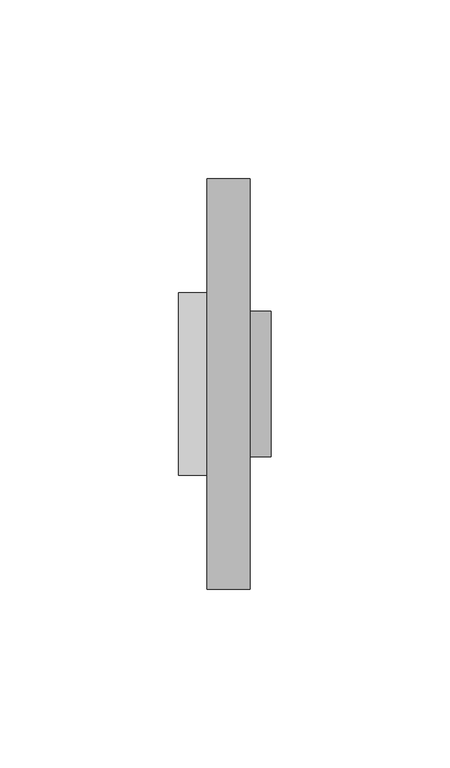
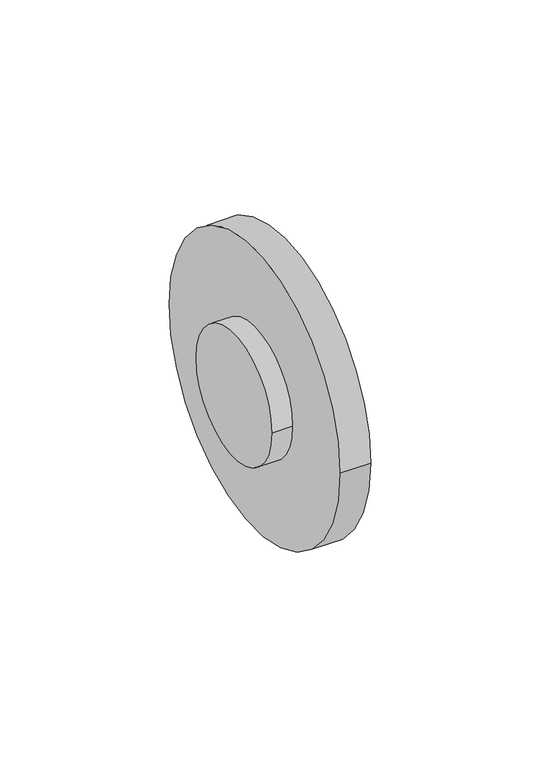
"""IFC4 building model written with IfcOpenShell, lengths in millimetres: pipe fitting geometry, NIRON RED termofusion casquillo con brida : Estándar."""

import ifcopenshell
import ifcopenshell.guid

model = None  # the IFC model being written
_history = None  # IfcOwnerHistory: only IFC2X3 demands one
_inside = {}  # id of a spatial element -> (the spatial element, [elements in it])
_under = {}  # id of a project, library or spatial element -> (it, [spatial elements below it])
_declared = {}  # id of a project -> (the project, [libraries it declares])
_typed = {}  # id of a type object -> (the type object, [elements of that type])
_made_of = {}  # id of a material, layer set ... -> (it, [elements and type objects made of it])


def new_model(schema):
    """Start an empty IFC model of exactly this schema.

    Asked for "IFC4X3", IfcOpenShell would pick the latest addendum, in which some entities
    have other attributes; the version numbers below select the first issue.
    IFC2X3 requires an IfcOwnerHistory on every rooted entity: one is made here for all.
    """
    global model, _history
    if schema == "IFC4X3":
        model = ifcopenshell.file(schema_version=(4, 3, 0, 0))
    else:
        model = ifcopenshell.file(schema=schema)
    _inside.clear()
    _under.clear()
    _declared.clear()
    _typed.clear()
    _made_of.clear()
    _history = None
    if model.schema == "IFC2X3":
        org = make("IfcOrganization", Name="unknown")
        user = make(
            "IfcPersonAndOrganization",
            ThePerson=make("IfcPerson", FamilyName="unknown"),
            TheOrganization=org,
        )
        app = make(
            "IfcApplication",
            ApplicationDeveloper=org,
            Version="unknown",
            ApplicationFullName="unknown",
            ApplicationIdentifier="unknown",
        )
        _history = make(
            "IfcOwnerHistory",
            OwningUser=user,
            OwningApplication=app,
            ChangeAction="ADDED",
            CreationDate=0,
        )
    return model


def make(cls, **values):
    """One entity of the class cls with the attributes given. An attribute that is None is left unset."""
    return model.create_entity(
        cls, **{name: value for name, value in values.items() if value is not None}
    )


def rooted(cls, **values):
    """An entity with a GlobalId (a new one), such as an element, a storey or a relation."""
    return make(cls, GlobalId=ifcopenshell.guid.new(), OwnerHistory=_history, **values)


def si_unit(unit_type, name, prefix=None):
    """IfcSIUnit, for example si_unit("LENGTHUNIT", "METRE", prefix="MILLI")."""
    return make("IfcSIUnit", UnitType=unit_type, Prefix=prefix, Name=name)


def assignment(units):
    """IfcUnitAssignment: the units of a project."""
    return None if units is None else make("IfcUnitAssignment", Units=units)


def point(xyz):
    """IfcCartesianPoint."""
    return None if xyz is None else make("IfcCartesianPoint", Coordinates=xyz)


def direction(xyz):
    """IfcDirection."""
    return None if xyz is None else make("IfcDirection", DirectionRatios=xyz)


def frame(location, z_axis=None, x_axis=None):
    """IfcAxis2Placement3D, a coordinate frame: its origin and axes. An axis left out is left unset."""
    return make(
        "IfcAxis2Placement3D",
        Location=point(location),
        Axis=direction(z_axis),
        RefDirection=direction(x_axis),
    )


def frame_2d(location, x_axis=None):
    """IfcAxis2Placement2D, a coordinate frame in the plane: its origin and x axis."""
    return make(
        "IfcAxis2Placement2D", Location=point(location), RefDirection=direction(x_axis)
    )


def origin():
    """The frame at (0, 0, 0) with its axes left unset."""
    return frame((0.0, 0.0, 0.0))


def origin_2d():
    """The frame at (0, 0) in the plane with its x axis left unset."""
    return frame_2d((0.0, 0.0))


def place(relative_to, where):
    """IfcLocalPlacement: puts the frame where relative to a parent placement (None: the world)."""
    return make(
        "IfcLocalPlacement", PlacementRelTo=relative_to, RelativePlacement=where
    )


def context(
    kind, dimensions, precision=None, world=None, true_north=None, identifier=None
):
    """IfcGeometricRepresentationContext, for example the 3D "Model" context."""
    return make(
        "IfcGeometricRepresentationContext",
        ContextIdentifier=identifier,
        ContextType=kind,
        CoordinateSpaceDimension=dimensions,
        Precision=precision,
        WorldCoordinateSystem=world,
        TrueNorth=true_north,
    )


def project(units=None, contexts=None):
    """IfcProject with its units and contexts."""
    return rooted(
        "IfcProject",
        Name="project",
        RepresentationContexts=contexts,
        UnitsInContext=assignment(units),
    )


def spatial(cls, under=None, at=None, **own):
    """A site, building, storey or space (cls), placed at a placement, below another one or the project."""
    s = rooted(cls, ObjectPlacement=at, **own)
    if under is not None:
        _under.setdefault(under.id(), (under, []))[1].append(s)
    return s


def circle_curve(where, radius):
    """IfcCircle in the frame where."""
    return make("IfcCircle", Position=where, Radius=radius)


def trimmed(basis, trim1, trim2, sense, master):
    """IfcTrimmedCurve: the piece of a basis curve between two trims."""
    return make(
        "IfcTrimmedCurve",
        BasisCurve=basis,
        Trim1=trim1,
        Trim2=trim2,
        SenseAgreement=sense,
        MasterRepresentation=master,
    )


def segment(curve, same_sense, transition):
    """IfcCompositeCurveSegment."""
    return make(
        "IfcCompositeCurveSegment",
        Transition=transition,
        SameSense=same_sense,
        ParentCurve=curve,
    )


def composite_curve(segments, self_intersect=None):
    """IfcCompositeCurve: segments joined end to end."""
    return make("IfcCompositeCurve", Segments=segments, SelfIntersect=self_intersect)


def outline(outer, holes=None, kind="AREA"):
    """IfcArbitraryClosedProfileDef: a profile drawn as a closed curve; with holes, ...WithVoids."""
    if holes is None:
        return make("IfcArbitraryClosedProfileDef", ProfileType=kind, OuterCurve=outer)
    return make(
        "IfcArbitraryProfileDefWithVoids",
        ProfileType=kind,
        OuterCurve=outer,
        InnerCurves=holes,
    )


def extrude(swept, where, along, depth):
    """IfcExtrudedAreaSolid: the profile swept, set in the frame where, extruded along a direction by depth."""
    return make(
        "IfcExtrudedAreaSolid",
        SweptArea=swept,
        Position=where,
        ExtrudedDirection=direction(along),
        Depth=depth,
    )


def shape(context_of_items, identifier, shape_type, items):
    """IfcShapeRepresentation: the items that make up one representation, for example the "Body"."""
    return make(
        "IfcShapeRepresentation",
        ContextOfItems=context_of_items,
        RepresentationIdentifier=identifier,
        RepresentationType=shape_type,
        Items=items,
    )


def source(mapping_origin, context_of_items, identifier, shape_type, items):
    """IfcRepresentationMap: a shape defined once, which mapped items show again and again."""
    return make(
        "IfcRepresentationMap",
        MappingOrigin=mapping_origin,
        MappedRepresentation=shape(context_of_items, identifier, shape_type, items),
    )


def transform(
    local_origin,
    x_axis=None,
    y_axis=None,
    z_axis=None,
    scale=None,
    scale2=None,
    scale3=None,
    uniform=True,
):
    """IfcCartesianTransformationOperator3D, or its non-uniform kind. x_axis, y_axis, z_axis: its Axis1, 2, 3."""
    if uniform:
        return make(
            "IfcCartesianTransformationOperator3D",
            Axis1=direction(x_axis),
            Axis2=direction(y_axis),
            LocalOrigin=point(local_origin),
            Scale=scale,
            Axis3=direction(z_axis),
        )
    return make(
        "IfcCartesianTransformationOperator3DnonUniform",
        Axis1=direction(x_axis),
        Axis2=direction(y_axis),
        LocalOrigin=point(local_origin),
        Scale=scale,
        Axis3=direction(z_axis),
        Scale2=scale2,
        Scale3=scale3,
    )


def mapped(mapping_source, mapping_target):
    """IfcMappedItem: shows the shape of a source again, moved by a transform."""
    return make(
        "IfcMappedItem", MappingSource=mapping_source, MappingTarget=mapping_target
    )


def made_of(thing, what):
    """Note that an element or type object is made of a material, layer set ...; save() writes the relation."""
    if what is not None:
        _made_of.setdefault(what.id(), (what, []))[1].append(thing)
    return thing


def element(
    cls,
    number,
    at=None,
    inside=None,
    cuts=None,
    type_object=None,
    material=None,
    context=None,
    identifier="Body",
    shape_type=None,
    held_by="IfcProductDefinitionShape",
    body=None,
    shapes=None,
    **own,
):
    """One element of the class cls, such as IfcWall. Its Tag is "e" and its number.

    at: its placement. inside: the storey or other place that contains it. cuts: it is an
    opening in that element (IfcRelVoidsElement). A single representation is given by context,
    identifier, shape_type and body (its items); several are given by shapes. held_by: the class
    of the entity that holds the representations. save() writes the other relations.
    """
    e = rooted(cls, Tag="e%d" % number, ObjectPlacement=at, **own)
    if body is not None:
        shapes = [shape(context, identifier, shape_type, body)]
    if shapes is not None:
        e.Representation = make(held_by, Representations=shapes)
    if inside is not None:
        _inside.setdefault(inside.id(), (inside, []))[1].append(e)
    if cuts is not None:
        rooted(
            "IfcRelVoidsElement", RelatingBuildingElement=cuts, RelatedOpeningElement=e
        )
    if type_object is not None:
        _typed.setdefault(type_object.id(), (type_object, []))[1].append(e)
    return made_of(e, material)


def aggregate(whole, parts):
    """IfcRelAggregates: a whole, such as a stair, and the parts it consists of."""
    return rooted("IfcRelAggregates", RelatingObject=whole, RelatedObjects=parts)


def save(model, path):
    """Write the relations noted so far, then the file.

    IfcRelAggregates (storeys below a building ...), IfcRelContainedInSpatialStructure (elements
    in a storey), IfcRelDefinesByType, IfcRelAssociatesMaterial and IfcRelDeclares: one each for
    every whole, place, type object, material and project.
    """
    for whole, parts in _under.values():
        aggregate(whole, parts)
    for where, things in _inside.values():
        rooted(
            "IfcRelContainedInSpatialStructure",
            RelatedElements=things,
            RelatingStructure=where,
        )
    for kind, things in _typed.values():
        rooted("IfcRelDefinesByType", RelatedObjects=things, RelatingType=kind)
    for what, things in _made_of.values():
        rooted("IfcRelAssociatesMaterial", RelatedObjects=things, RelatingMaterial=what)
    for by, libraries in _declared.values():
        rooted("IfcRelDeclares", RelatingContext=by, RelatedDefinitions=libraries)
    model.write(path)


def pipe_fitting_7c48ccdc(model_context):
    return source(origin(), model_context, "Body", "SweptSolid", [
        extrude(outline(composite_curve([segment(trimmed(circle_curve(origin_2d(), 20.3), [point((20.3, 0.0))], [point((-20.3, 0.0))], False, "CARTESIAN"), True, "CONTINUOUS"), segment(trimmed(circle_curve(origin_2d(), 20.3), [point((-20.3, 0.0))], [point((20.3, 0.0))], False, "CARTESIAN"), True, "CONTINUOUS")], self_intersect=False)), frame((8.0, 0.0, 0.0), z_axis=(1.0, 0.0, 0.0), x_axis=(0.0, 1.0, 0.0)), (0.0, 0.0, 1.0), 18.0),
        extrude(outline(composite_curve([segment(trimmed(circle_curve(origin_2d(), 25.5), [point((-25.5, 0.0))], [point((25.5, 0.0))], False, "CARTESIAN"), True, "CONTINUOUS"), segment(trimmed(circle_curve(origin_2d(), 25.5), [point((25.5, 0.0))], [point((-25.5, 0.0))], False, "CARTESIAN"), True, "CONTINUOUS")], self_intersect=False)), frame((0.0, 0.0, 0.0), z_axis=(1.0, 0.0, 0.0), x_axis=(0.0, 1.0, 0.0)), (0.0, 0.0, 1.0), 8.0),
        extrude(outline(composite_curve([segment(trimmed(circle_curve(origin_2d(), 57.5), [point((57.5, 0.0))], [point((-57.5, 0.0))], False, "CARTESIAN"), True, "CONTINUOUS"), segment(trimmed(circle_curve(origin_2d(), 57.5), [point((-57.5, 0.0))], [point((57.5, 0.0))], False, "CARTESIAN"), True, "CONTINUOUS")], self_intersect=False), holes=[composite_curve([segment(trimmed(circle_curve(origin_2d(), 22.5), [point((22.5, 0.0))], [point((-22.5, 0.0))], True, "CARTESIAN"), True, "CONTINUOUS"), segment(trimmed(circle_curve(origin_2d(), 22.5), [point((-22.5, 0.0))], [point((22.5, 0.0))], True, "CARTESIAN"), True, "CONTINUOUS")], self_intersect=False)]), frame((8.0, 0.0, 0.0), z_axis=(1.0, 0.0, 0.0), x_axis=(0.0, 1.0, 0.0)), (0.0, 0.0, 1.0), 12.0),
    ])


if __name__ == "__main__":
    model = new_model("IFC4")
    model_context = context("Model", 3, world=origin())
    ifc_project = project(units=[si_unit("LENGTHUNIT", "METRE", prefix="MILLI")], contexts=[model_context])
    site = spatial("IfcSite", under=ifc_project)
    building = spatial("IfcBuilding", under=site)
    placement = place(None, origin())
    pipe_fitting_shape = pipe_fitting_7c48ccdc(model_context)
    element("IfcPipeFitting", 1, ObjectType="NIRON RED termofusion casquillo con brida : Estándar", at=placement, inside=building, context=model_context, shape_type="MappedRepresentation", body=[
        mapped(pipe_fitting_shape, transform((0.0, 0.0, 0.0), x_axis=(1.0, 0.0, 0.0), y_axis=(0.0, 1.0, 0.0), z_axis=(0.0, 0.0, 1.0))),
    ])
    save(model, "model.ifc")
